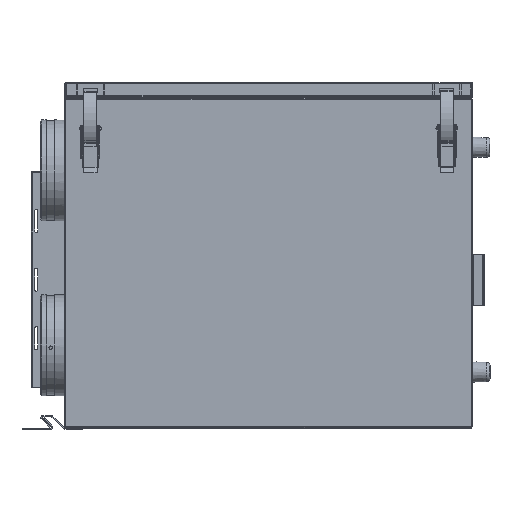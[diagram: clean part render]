
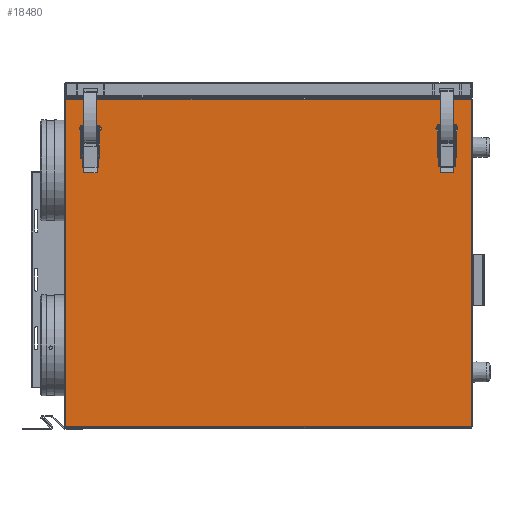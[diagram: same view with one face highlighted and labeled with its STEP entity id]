
A CAD part, left-side view. The second image highlights one B-rep face of the part: STEP entity #18480.
In plain terms, the highlighted planar face has unit normal (-1, 0, 0).
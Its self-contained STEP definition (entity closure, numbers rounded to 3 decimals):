
#1479=LINE('',#30839,#3087);
#1486=LINE('',#30884,#3094);
#1488=LINE('',#30896,#3096);
#1489=LINE('',#30897,#3097);
#3087=VECTOR('',#24238,1000.);
#3094=VECTOR('',#24295,1000.);
#3096=VECTOR('',#24309,1000.);
#3097=VECTOR('',#24310,1000.);
#4398=PLANE('',#20174);
#8040=ORIENTED_EDGE('',*,*,#11373,.T.);
#8041=ORIENTED_EDGE('',*,*,#11374,.T.);
#8042=ORIENTED_EDGE('',*,*,#11375,.T.);
#8043=ORIENTED_EDGE('',*,*,#11376,.T.);
#8044=ORIENTED_EDGE('',*,*,#11377,.T.);
#8045=ORIENTED_EDGE('',*,*,#11371,.T.);
#8046=ORIENTED_EDGE('',*,*,#11378,.T.);
#8047=ORIENTED_EDGE('',*,*,#11351,.T.);
#11351=EDGE_CURVE('',#13321,#13322,#1479,.T.);
#11371=EDGE_CURVE('',#13085,#13080,#1486,.T.);
#11373=EDGE_CURVE('',#13336,#13336,#14353,.T.);
#11374=EDGE_CURVE('',#13337,#13337,#14354,.T.);
#11375=EDGE_CURVE('',#13338,#13338,#14355,.T.);
#11376=EDGE_CURVE('',#13339,#13339,#14356,.T.);
#11377=EDGE_CURVE('',#13322,#13085,#1488,.T.);
#11378=EDGE_CURVE('',#13080,#13321,#1489,.T.);
#13080=VERTEX_POINT('',#30042);
#13085=VERTEX_POINT('',#30053);
#13321=VERTEX_POINT('',#30833);
#13322=VERTEX_POINT('',#30838);
#13336=VERTEX_POINT('',#30889);
#13337=VERTEX_POINT('',#30891);
#13338=VERTEX_POINT('',#30893);
#13339=VERTEX_POINT('',#30895);
#14353=CIRCLE('',#20175,2.35);
#14354=CIRCLE('',#20176,2.35);
#14355=CIRCLE('',#20177,2.35);
#14356=CIRCLE('',#20178,2.35);
#15712=EDGE_LOOP('',(#8040));
#15713=EDGE_LOOP('',(#8041));
#15714=EDGE_LOOP('',(#8042));
#15715=EDGE_LOOP('',(#8043));
#15716=EDGE_LOOP('',(#8044,#8045,#8046,#8047));
#17314=FACE_BOUND('',#15712,.T.);
#17315=FACE_BOUND('',#15713,.T.);
#17316=FACE_BOUND('',#15714,.T.);
#17317=FACE_BOUND('',#15715,.T.);
#17318=FACE_BOUND('',#15716,.T.);
#18480=ADVANCED_FACE('',(#17314,#17315,#17316,#17317,#17318),#4398,.T.);
#20174=AXIS2_PLACEMENT_3D('',#30887,#24299,#24300);
#20175=AXIS2_PLACEMENT_3D('',#30888,#24301,#24302);
#20176=AXIS2_PLACEMENT_3D('',#30890,#24303,#24304);
#20177=AXIS2_PLACEMENT_3D('',#30892,#24305,#24306);
#20178=AXIS2_PLACEMENT_3D('',#30894,#24307,#24308);
#24238=DIRECTION('',(0.,0.,-1.));
#24295=DIRECTION('',(0.,0.,1.));
#24299=DIRECTION('',(-1.,0.,0.));
#24300=DIRECTION('',(0.,-1.,0.));
#24301=DIRECTION('',(1.,0.,0.));
#24302=DIRECTION('',(0.,0.,1.));
#24303=DIRECTION('',(1.,0.,0.));
#24304=DIRECTION('',(0.,0.,1.));
#24305=DIRECTION('',(1.,0.,0.));
#24306=DIRECTION('',(0.,0.,1.));
#24307=DIRECTION('',(1.,0.,0.));
#24308=DIRECTION('',(0.,0.,1.));
#24309=DIRECTION('',(0.,-1.,0.));
#24310=DIRECTION('',(0.,1.,0.));
#30042=CARTESIAN_POINT('',(-445.,-31.,254.5));
#30053=CARTESIAN_POINT('',(-445.,-31.,-254.5));
#30833=CARTESIAN_POINT('',(-445.,599.,254.5));
#30838=CARTESIAN_POINT('',(-445.,599.,-254.5));
#30839=CARTESIAN_POINT('',(-445.,599.,255.5));
#30884=CARTESIAN_POINT('',(-445.,-31.,-254.5));
#30887=CARTESIAN_POINT('',(-445.,0.,0.));
#30888=CARTESIAN_POINT('',(-445.,561.,172.5));
#30889=CARTESIAN_POINT('',(-445.,561.,174.85));
#30890=CARTESIAN_POINT('',(-445.,7.,198.5));
#30891=CARTESIAN_POINT('',(-445.,7.,200.85));
#30892=CARTESIAN_POINT('',(-445.,7.,172.5));
#30893=CARTESIAN_POINT('',(-445.,7.,174.85));
#30894=CARTESIAN_POINT('',(-445.,561.,198.5));
#30895=CARTESIAN_POINT('',(-445.,561.,200.85));
#30896=CARTESIAN_POINT('',(-445.,599.,-254.5));
#30897=CARTESIAN_POINT('',(-445.,-32.,254.5));
